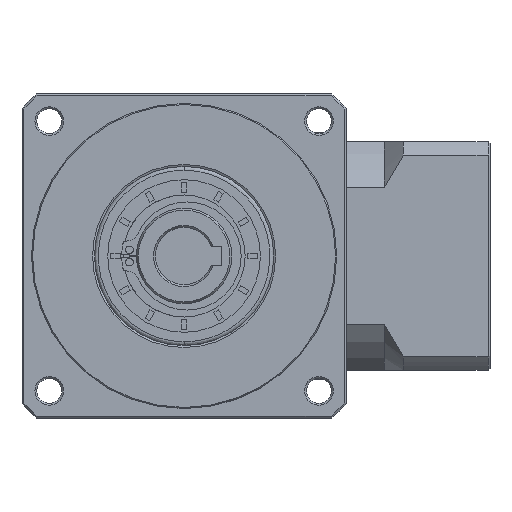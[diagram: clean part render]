
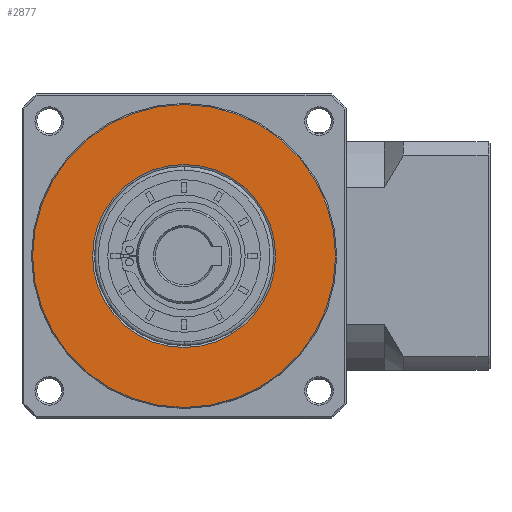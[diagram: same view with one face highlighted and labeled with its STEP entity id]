
A CAD part, left-side view. The second image highlights one B-rep face of the part: STEP entity #2877.
In plain terms, the highlighted planar face has unit normal (-1, 0, 0).
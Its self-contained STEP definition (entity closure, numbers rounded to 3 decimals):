
#2877 = ADVANCED_FACE ( 'NONE', ( #58337, #160046 ), #3144, .T. ) ;
#3144 = PLANE ( 'NONE',  #127244 ) ;
#16011 = EDGE_CURVE ( 'NONE', #143709, #66661, #63977, .T. ) ;
#17317 = EDGE_CURVE ( 'NONE', #66661, #143709, #20110, .T. ) ;
#20110 = CIRCLE ( 'NONE', #117077, 39.711 ) ;
#20321 = CIRCLE ( 'NONE', #144236, 24. ) ;
#23924 = EDGE_CURVE ( 'NONE', #55324, #120460, #38625, .T. ) ;
#25216 = CARTESIAN_POINT ( 'NONE',  ( -124.359, 116.982, 17.711 ) ) ;
#31689 = AXIS2_PLACEMENT_3D ( 'NONE', #125612, #46080, #138948 ) ;
#38625 = CIRCLE ( 'NONE', #31689, 24. ) ;
#46080 = DIRECTION ( 'NONE',  ( 1., 0., 0. ) ) ;
#48588 = DIRECTION ( 'NONE',  ( 1., 0., 0. ) ) ;
#50080 = CARTESIAN_POINT ( 'NONE',  ( -124.359, 77.271, 41.711 ) ) ;
#51463 = EDGE_LOOP ( 'NONE', ( #130277, #101242 ) ) ;
#55324 = VERTEX_POINT ( 'NONE', #158152 ) ;
#58337 = FACE_OUTER_BOUND ( 'NONE', #108770, .T. ) ;
#63977 = CIRCLE ( 'NONE', #104760, 39.711 ) ;
#66661 = VERTEX_POINT ( 'NONE', #104080 ) ;
#67484 = CARTESIAN_POINT ( 'NONE',  ( -124.359, 77.271, 17.711 ) ) ;
#69971 = DIRECTION ( 'NONE',  ( -1., 0., 0. ) ) ;
#77584 = CARTESIAN_POINT ( 'NONE',  ( -124.359, 77.271, 17.711 ) ) ;
#80794 = DIRECTION ( 'NONE',  ( 0., 1., 0. ) ) ;
#90950 = DIRECTION ( 'NONE',  ( 0., 1., 0. ) ) ;
#91028 = EDGE_CURVE ( 'NONE', #120460, #55324, #20321, .T. ) ;
#101242 = ORIENTED_EDGE ( 'NONE', *, *, #91028, .T. ) ;
#104080 = CARTESIAN_POINT ( 'NONE',  ( -124.359, 37.559, 17.711 ) ) ;
#104760 = AXIS2_PLACEMENT_3D ( 'NONE', #77584, #170384, #90950 ) ;
#108770 = EDGE_LOOP ( 'NONE', ( #124523, #121278 ) ) ;
#117077 = AXIS2_PLACEMENT_3D ( 'NONE', #67484, #160264, #80794 ) ;
#120460 = VERTEX_POINT ( 'NONE', #50080 ) ;
#121278 = ORIENTED_EDGE ( 'NONE', *, *, #17317, .F. ) ;
#124523 = ORIENTED_EDGE ( 'NONE', *, *, #16011, .F. ) ;
#125612 = CARTESIAN_POINT ( 'NONE',  ( -124.359, 77.271, 17.711 ) ) ;
#127244 = AXIS2_PLACEMENT_3D ( 'NONE', #149357, #69971, #162730 ) ;
#128041 = CARTESIAN_POINT ( 'NONE',  ( -124.359, 77.271, 17.711 ) ) ;
#130277 = ORIENTED_EDGE ( 'NONE', *, *, #23924, .T. ) ;
#138948 = DIRECTION ( 'NONE',  ( 0., 0., -1. ) ) ;
#141405 = DIRECTION ( 'NONE',  ( 0., 0., -1. ) ) ;
#143709 = VERTEX_POINT ( 'NONE', #25216 ) ;
#144236 = AXIS2_PLACEMENT_3D ( 'NONE', #128041, #48588, #141405 ) ;
#149357 = CARTESIAN_POINT ( 'NONE',  ( -124.359, 77.271, 17.711 ) ) ;
#158152 = CARTESIAN_POINT ( 'NONE',  ( -124.359, 77.271, -6.289 ) ) ;
#160046 = FACE_BOUND ( 'NONE', #51463, .T. ) ;
#160264 = DIRECTION ( 'NONE',  ( 1., 0., 0. ) ) ;
#162730 = DIRECTION ( 'NONE',  ( 0., 0., -1. ) ) ;
#170384 = DIRECTION ( 'NONE',  ( 1., 0., 0. ) ) ;
